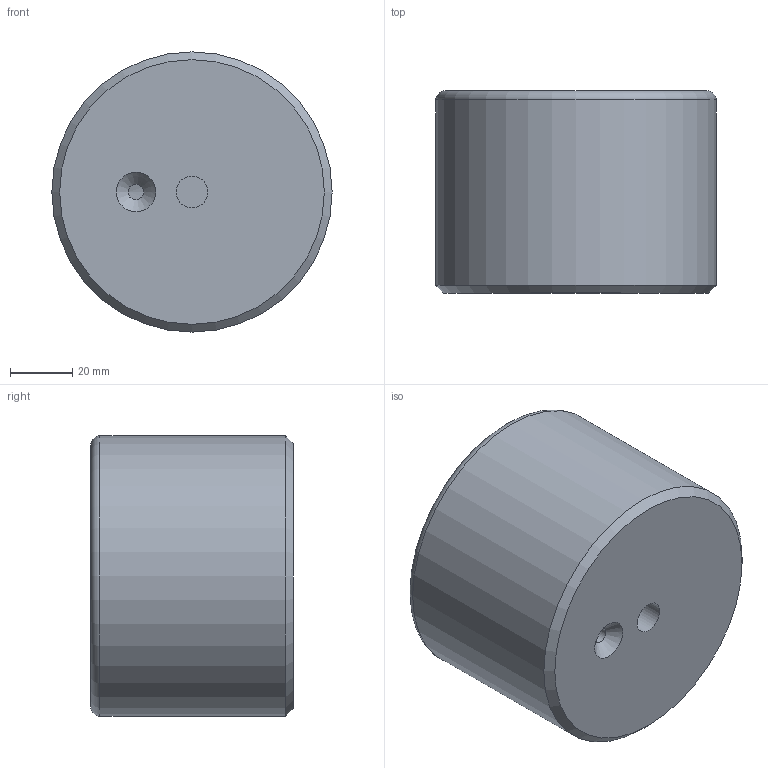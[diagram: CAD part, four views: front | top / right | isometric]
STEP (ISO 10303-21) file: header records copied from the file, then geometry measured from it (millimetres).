
FILE_DESCRIPTION(('FreeCAD Model'),'2;1');
FILE_NAME('Open CASCADE Shape Model','2025-12-23T20:05:56',(''),(''), 'Open CASCADE STEP processor 7.8','FreeCAD','Unknown');
FILE_SCHEMA(('AUTOMOTIVE_DESIGN { 1 0 10303 214 1 1 1 1 }'));
Length unit declared in the file: millimetre
Products named in the file (1): Ellbogenstütze
Bounding box: 90 x 65 x 90 mm (x, y, z)
Volume: 286662.9 mm3; surface area: 44624 mm2
Topology: 1 solids, 1 shells, 19 faces, 30 edges, 18 vertices
Faces by surface type: plane 7, cylinder 5, cone 4, torus 3
Full cylindrical faces by diameter (mm): 5 x1, 10.2 x1, 20 x1, 70 x1, 90 x1
Entity records: 461 total; most frequent: DIRECTION 91, CARTESIAN_POINT 68, ORIENTED_EDGE 60, AXIS2_PLACEMENT_3D 41, EDGE_CURVE 30, FACE_BOUND 24, EDGE_LOOP 24, CIRCLE 21
